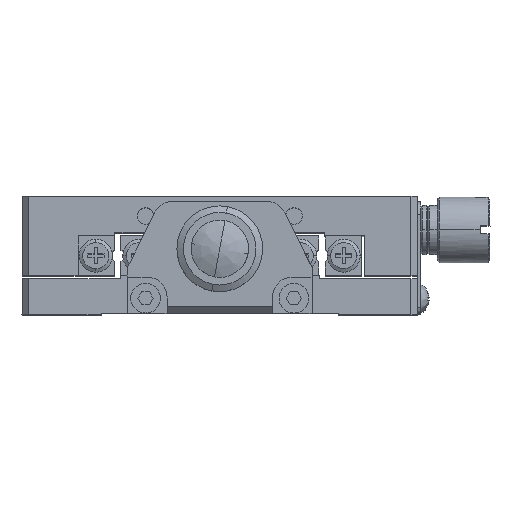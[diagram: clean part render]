
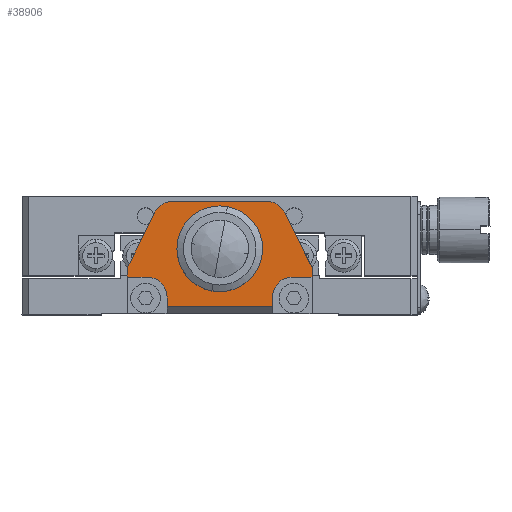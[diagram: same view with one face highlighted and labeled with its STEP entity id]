
A CAD part, top view. The second image highlights one B-rep face of the part: STEP entity #38906.
In plain terms, the highlighted planar face has unit normal (0, 0, 1).
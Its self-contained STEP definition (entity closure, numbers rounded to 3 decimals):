
#516 = VERTEX_POINT ( 'NONE', #36881 ) ;
#703 = ORIENTED_EDGE ( 'NONE', *, *, #13083, .T. ) ;
#1119 = CARTESIAN_POINT ( 'NONE',  ( 37.146, 14.2, 19.3 ) ) ;
#1260 = AXIS2_PLACEMENT_3D ( 'NONE', #1119, #29539, #5173 ) ;
#1265 = VECTOR ( 'NONE', #27922, 1000. ) ;
#1366 = LINE ( 'NONE', #19025, #32531 ) ;
#1414 = ORIENTED_EDGE ( 'NONE', *, *, #31802, .T. ) ;
#1584 = AXIS2_PLACEMENT_3D ( 'NONE', #31568, #7190, #35654 ) ;
#1762 = VECTOR ( 'NONE', #34929, 1000. ) ;
#1822 = VERTEX_POINT ( 'NONE', #6934 ) ;
#1962 = DIRECTION ( 'NONE',  ( 0., 0., 1. ) ) ;
#2491 = CIRCLE ( 'NONE', #2584, 3. ) ;
#2584 = AXIS2_PLACEMENT_3D ( 'NONE', #3284, #44060, #15500 ) ;
#2699 = LINE ( 'NONE', #22143, #23039 ) ;
#2818 = ORIENTED_EDGE ( 'NONE', *, *, #3609, .T. ) ;
#3025 = AXIS2_PLACEMENT_3D ( 'NONE', #26323, #1962, #30365 ) ;
#3284 = CARTESIAN_POINT ( 'NONE',  ( 19., 2.7, 19.3 ) ) ;
#3477 = VERTEX_POINT ( 'NONE', #28010 ) ;
#3555 = CARTESIAN_POINT ( 'NONE',  ( 30., 5.7, 19.3 ) ) ;
#3609 = EDGE_CURVE ( 'NONE', #30506, #17163, #12991, .T. ) ;
#3931 = CARTESIAN_POINT ( 'NONE',  ( 38., 2.7, 19.3 ) ) ;
#4039 = DIRECTION ( 'NONE',  ( 0., 1., 0. ) ) ;
#4123 = ORIENTED_EDGE ( 'NONE', *, *, #12288, .T. ) ;
#4135 = CARTESIAN_POINT ( 'NONE',  ( 37.146, 17.2, 19.3 ) ) ;
#5173 = DIRECTION ( 'NONE',  ( -1., 0., 0. ) ) ;
#5714 = ORIENTED_EDGE ( 'NONE', *, *, #50381, .F. ) ;
#5862 = EDGE_LOOP ( 'NONE', ( #18367, #703 ) ) ;
#6154 = EDGE_CURVE ( 'NONE', #27910, #10080, #45817, .T. ) ;
#6905 = ORIENTED_EDGE ( 'NONE', *, *, #39910, .T. ) ;
#6934 = CARTESIAN_POINT ( 'NONE',  ( 44., 7.2, 19.3 ) ) ;
#7190 = DIRECTION ( 'NONE',  ( 0., 0., 1. ) ) ;
#7505 = AXIS2_PLACEMENT_3D ( 'NONE', #13842, #42340, #17950 ) ;
#7696 = CIRCLE ( 'NONE', #1260, 3. ) ;
#7913 = VECTOR ( 'NONE', #12443, 1000. ) ;
#8162 = CARTESIAN_POINT ( 'NONE',  ( 16., 3.7, 19.3 ) ) ;
#9901 = PLANE ( 'NONE',  #3025 ) ;
#10080 = VERTEX_POINT ( 'NONE', #39905 ) ;
#10583 = CARTESIAN_POINT ( 'NONE',  ( 20.171, 15.542, 19.3 ) ) ;
#10725 = LINE ( 'NONE', #37585, #20223 ) ;
#11260 = VERTEX_POINT ( 'NONE', #10583 ) ;
#11308 = EDGE_CURVE ( 'NONE', #3477, #28335, #18665, .T. ) ;
#12038 = LINE ( 'NONE', #28278, #41965 ) ;
#12062 = DIRECTION ( 'NONE',  ( 0., -1., 0. ) ) ;
#12228 = CARTESIAN_POINT ( 'NONE',  ( 30., 14.7, 19.3 ) ) ;
#12288 = EDGE_CURVE ( 'NONE', #10080, #15849, #43322, .T. ) ;
#12443 = DIRECTION ( 'NONE',  ( 0., 1., 0. ) ) ;
#12537 = VERTEX_POINT ( 'NONE', #33921 ) ;
#12755 = CARTESIAN_POINT ( 'NONE',  ( 19., 5.7, 19.3 ) ) ;
#12991 = LINE ( 'NONE', #25669, #22597 ) ;
#13083 = EDGE_CURVE ( 'NONE', #28335, #3477, #18190, .T. ) ;
#13842 = CARTESIAN_POINT ( 'NONE',  ( 41., 2.7, 19.3 ) ) ;
#14584 = VECTOR ( 'NONE', #28022, 1000. ) ;
#14871 = FACE_BOUND ( 'NONE', #5862, .T. ) ;
#15500 = DIRECTION ( 'NONE',  ( -1., 0., 0. ) ) ;
#15849 = VERTEX_POINT ( 'NONE', #3931 ) ;
#16040 = DIRECTION ( 'NONE',  ( 0., -1., 0. ) ) ;
#16951 = AXIS2_PLACEMENT_3D ( 'NONE', #31031, #40382, #16040 ) ;
#16995 = EDGE_CURVE ( 'NONE', #516, #12537, #51174, .T. ) ;
#17163 = VERTEX_POINT ( 'NONE', #42627 ) ;
#17950 = DIRECTION ( 'NONE',  ( -1., 0., 0. ) ) ;
#18190 = CIRCLE ( 'NONE', #16951, 4.75 ) ;
#18367 = ORIENTED_EDGE ( 'NONE', *, *, #11308, .T. ) ;
#18665 = CIRCLE ( 'NONE', #41598, 4.75 ) ;
#18873 = EDGE_CURVE ( 'NONE', #48782, #24637, #1366, .T. ) ;
#19025 = CARTESIAN_POINT ( 'NONE',  ( 30., 17.2, 19.3 ) ) ;
#20223 = VECTOR ( 'NONE', #33497, 1000. ) ;
#21621 = ORIENTED_EDGE ( 'NONE', *, *, #35610, .T. ) ;
#21669 = ORIENTED_EDGE ( 'NONE', *, *, #27843, .T. ) ;
#22143 = CARTESIAN_POINT ( 'NONE',  ( 22., 9.2, 19.3 ) ) ;
#22584 = EDGE_CURVE ( 'NONE', #23297, #40443, #2491, .T. ) ;
#22597 = VECTOR ( 'NONE', #25788, 1000. ) ;
#23039 = VECTOR ( 'NONE', #30290, 1000. ) ;
#23297 = VERTEX_POINT ( 'NONE', #12755 ) ;
#24063 = CARTESIAN_POINT ( 'NONE',  ( 41., 5.7, 19.3 ) ) ;
#24311 = CARTESIAN_POINT ( 'NONE',  ( 38., 1.45, 19.3 ) ) ;
#24637 = VERTEX_POINT ( 'NONE', #28439 ) ;
#25669 = CARTESIAN_POINT ( 'NONE',  ( 42.5, 5.7, 19.3 ) ) ;
#25788 = DIRECTION ( 'NONE',  ( 1., 0., 0. ) ) ;
#26323 = CARTESIAN_POINT ( 'NONE',  ( 16., 1.2, 19.3 ) ) ;
#26467 = EDGE_CURVE ( 'NONE', #1822, #17163, #12038, .T. ) ;
#26983 = ORIENTED_EDGE ( 'NONE', *, *, #31022, .T. ) ;
#27843 = EDGE_CURVE ( 'NONE', #42480, #48782, #7696, .T. ) ;
#27910 = VERTEX_POINT ( 'NONE', #42181 ) ;
#27922 = DIRECTION ( 'NONE',  ( 1., 0., 0. ) ) ;
#27971 = CARTESIAN_POINT ( 'NONE',  ( 30., 1.2, 19.3 ) ) ;
#28010 = CARTESIAN_POINT ( 'NONE',  ( 30., 5.2, 19.3 ) ) ;
#28022 = DIRECTION ( 'NONE',  ( 1., 0., 0. ) ) ;
#28278 = CARTESIAN_POINT ( 'NONE',  ( 44., 3.7, 19.3 ) ) ;
#28335 = VERTEX_POINT ( 'NONE', #12228 ) ;
#28439 = CARTESIAN_POINT ( 'NONE',  ( 22.854, 17.2, 19.3 ) ) ;
#29539 = DIRECTION ( 'NONE',  ( 0., 0., 1. ) ) ;
#30134 = ORIENTED_EDGE ( 'NONE', *, *, #38321, .T. ) ;
#30257 = ORIENTED_EDGE ( 'NONE', *, *, #26467, .F. ) ;
#30290 = DIRECTION ( 'NONE',  ( 0., -1., 0. ) ) ;
#30365 = DIRECTION ( 'NONE',  ( 1., 0., 0. ) ) ;
#30506 = VERTEX_POINT ( 'NONE', #24063 ) ;
#31022 = EDGE_CURVE ( 'NONE', #516, #23297, #43299, .T. ) ;
#31031 = CARTESIAN_POINT ( 'NONE',  ( 30., 9.95, 19.3 ) ) ;
#31568 = CARTESIAN_POINT ( 'NONE',  ( 22.854, 14.2, 19.3 ) ) ;
#31802 = EDGE_CURVE ( 'NONE', #24637, #11260, #38087, .T. ) ;
#32531 = VECTOR ( 'NONE', #39195, 1000. ) ;
#33497 = DIRECTION ( 'NONE',  ( -0.447, 0.894, 0. ) ) ;
#33921 = CARTESIAN_POINT ( 'NONE',  ( 16., 7.2, 19.3 ) ) ;
#34929 = DIRECTION ( 'NONE',  ( -0.447, -0.894, 0. ) ) ;
#35267 = FACE_OUTER_BOUND ( 'NONE', #46071, .T. ) ;
#35610 = EDGE_CURVE ( 'NONE', #40443, #27910, #2699, .T. ) ;
#35654 = DIRECTION ( 'NONE',  ( 1., 0., 0. ) ) ;
#36251 = VECTOR ( 'NONE', #4039, 1000. ) ;
#36597 = CARTESIAN_POINT ( 'NONE',  ( 22., 2.7, 19.3 ) ) ;
#36881 = CARTESIAN_POINT ( 'NONE',  ( 16., 5.7, 19.3 ) ) ;
#37353 = DIRECTION ( 'NONE',  ( 0., 0., -1. ) ) ;
#37585 = CARTESIAN_POINT ( 'NONE',  ( 44., 7.2, 19.3 ) ) ;
#38087 = CIRCLE ( 'NONE', #1584, 3. ) ;
#38321 = EDGE_CURVE ( 'NONE', #11260, #12537, #45061, .T. ) ;
#38906 = ADVANCED_FACE ( 'NONE', ( #14871, #35267 ), #9901, .T. ) ;
#39195 = DIRECTION ( 'NONE',  ( -1., 0., 0. ) ) ;
#39905 = CARTESIAN_POINT ( 'NONE',  ( 38., 1.2, 19.3 ) ) ;
#39910 = EDGE_CURVE ( 'NONE', #1822, #42480, #10725, .T. ) ;
#40382 = DIRECTION ( 'NONE',  ( 0., 0., -1. ) ) ;
#40443 = VERTEX_POINT ( 'NONE', #36597 ) ;
#41598 = AXIS2_PLACEMENT_3D ( 'NONE', #50869, #37353, #41955 ) ;
#41955 = DIRECTION ( 'NONE',  ( 0., -1., 0. ) ) ;
#41965 = VECTOR ( 'NONE', #12062, 1000. ) ;
#42181 = CARTESIAN_POINT ( 'NONE',  ( 22., 1.2, 19.3 ) ) ;
#42340 = DIRECTION ( 'NONE',  ( 0., 0., 1. ) ) ;
#42480 = VERTEX_POINT ( 'NONE', #44804 ) ;
#42627 = CARTESIAN_POINT ( 'NONE',  ( 44., 5.7, 19.3 ) ) ;
#42753 = ORIENTED_EDGE ( 'NONE', *, *, #18873, .T. ) ;
#43299 = LINE ( 'NONE', #3555, #1265 ) ;
#43322 = LINE ( 'NONE', #24311, #36251 ) ;
#44060 = DIRECTION ( 'NONE',  ( 0., 0., -1. ) ) ;
#44804 = CARTESIAN_POINT ( 'NONE',  ( 39.829, 15.542, 19.3 ) ) ;
#45061 = LINE ( 'NONE', #51079, #1762 ) ;
#45817 = LINE ( 'NONE', #27971, #14584 ) ;
#46071 = EDGE_LOOP ( 'NONE', ( #1414, #30134, #48603, #26983, #50244, #21621, #50257, #4123, #5714, #2818, #30257, #6905, #21669, #42753 ) ) ;
#48603 = ORIENTED_EDGE ( 'NONE', *, *, #16995, .F. ) ;
#48782 = VERTEX_POINT ( 'NONE', #4135 ) ;
#50244 = ORIENTED_EDGE ( 'NONE', *, *, #22584, .T. ) ;
#50257 = ORIENTED_EDGE ( 'NONE', *, *, #6154, .T. ) ;
#50381 = EDGE_CURVE ( 'NONE', #30506, #15849, #52209, .T. ) ;
#50869 = CARTESIAN_POINT ( 'NONE',  ( 30., 9.95, 19.3 ) ) ;
#51079 = CARTESIAN_POINT ( 'NONE',  ( 20.171, 15.542, 19.3 ) ) ;
#51174 = LINE ( 'NONE', #8162, #7913 ) ;
#52209 = CIRCLE ( 'NONE', #7505, 3. ) ;
